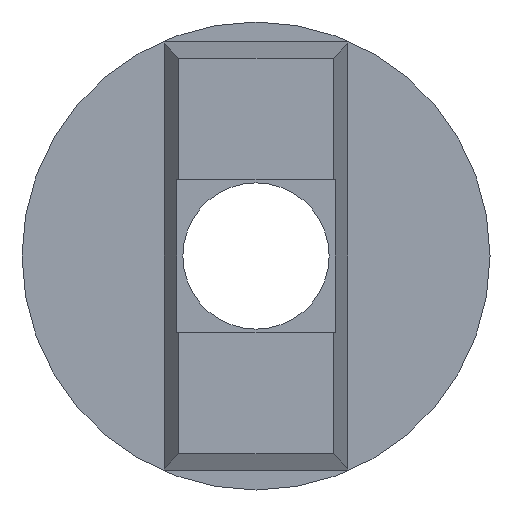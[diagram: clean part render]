
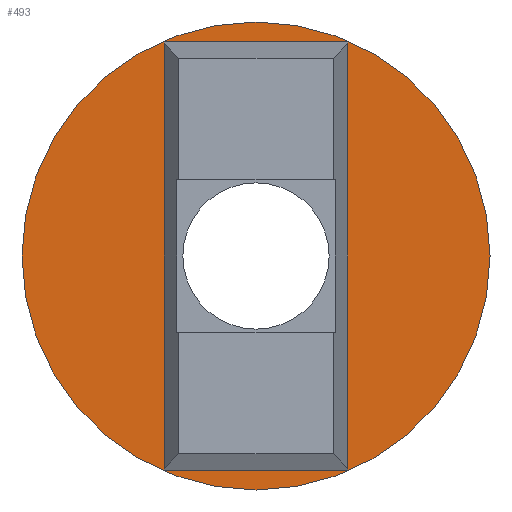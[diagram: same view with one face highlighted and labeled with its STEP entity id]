
A CAD part, front view. The second image highlights one B-rep face of the part: STEP entity #493.
In plain terms, the highlighted planar face has unit normal (0, -1, 0).
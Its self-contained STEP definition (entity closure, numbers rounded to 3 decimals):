
#6 = ORIENTED_EDGE ( 'NONE', *, *, #683, .F. ) ;
#18 = VECTOR ( 'NONE', #180, 1000. ) ;
#28 = CARTESIAN_POINT ( 'NONE',  ( 0., 8., -20. ) ) ;
#30 = FACE_OUTER_BOUND ( 'NONE', #641, .T. ) ;
#37 = DIRECTION ( 'NONE',  ( -1., 0., 0. ) ) ;
#86 = LINE ( 'NONE', #182, #18 ) ;
#90 = VERTEX_POINT ( 'NONE', #111 ) ;
#93 = EDGE_CURVE ( 'NONE', #537, #200, #539, .T. ) ;
#97 = AXIS2_PLACEMENT_3D ( 'NONE', #810, #739, #296 ) ;
#111 = CARTESIAN_POINT ( 'NONE',  ( 0., 8., 20. ) ) ;
#157 = AXIS2_PLACEMENT_3D ( 'NONE', #750, #411, #37 ) ;
#177 = DIRECTION ( 'NONE',  ( 0., 0., -1. ) ) ;
#180 = DIRECTION ( 'NONE',  ( 0., 0., -1. ) ) ;
#182 = CARTESIAN_POINT ( 'NONE',  ( 7.85, 8., 24.75 ) ) ;
#189 = CARTESIAN_POINT ( 'NONE',  ( -20., 8., 18.3 ) ) ;
#200 = VERTEX_POINT ( 'NONE', #612 ) ;
#214 = PLANE ( 'NONE',  #456 ) ;
#219 = DIRECTION ( 'NONE',  ( -1., 0., 0. ) ) ;
#237 = VERTEX_POINT ( 'NONE', #503 ) ;
#245 = ORIENTED_EDGE ( 'NONE', *, *, #576, .F. ) ;
#258 = EDGE_CURVE ( 'NONE', #537, #668, #358, .T. ) ;
#296 = DIRECTION ( 'NONE',  ( -1., 0., 0. ) ) ;
#334 = CIRCLE ( 'NONE', #97, 20. ) ;
#358 = LINE ( 'NONE', #189, #430 ) ;
#383 = EDGE_CURVE ( 'NONE', #200, #237, #426, .T. ) ;
#411 = DIRECTION ( 'NONE',  ( 0., 1., 0. ) ) ;
#426 = LINE ( 'NONE', #716, #484 ) ;
#430 = VECTOR ( 'NONE', #434, 1000. ) ;
#434 = DIRECTION ( 'NONE',  ( 1., 0., 0. ) ) ;
#456 = AXIS2_PLACEMENT_3D ( 'NONE', #590, #529, #219 ) ;
#484 = VECTOR ( 'NONE', #518, 1000. ) ;
#493 = ADVANCED_FACE ( 'NONE', ( #665, #30 ), #214, .F. ) ;
#503 = CARTESIAN_POINT ( 'NONE',  ( 7.85, 8., -18.3 ) ) ;
#518 = DIRECTION ( 'NONE',  ( 1., 0., 0. ) ) ;
#524 = CARTESIAN_POINT ( 'NONE',  ( -7.85, 8., 18.3 ) ) ;
#529 = DIRECTION ( 'NONE',  ( 0., 1., 0. ) ) ;
#537 = VERTEX_POINT ( 'NONE', #524 ) ;
#539 = LINE ( 'NONE', #608, #791 ) ;
#557 = ORIENTED_EDGE ( 'NONE', *, *, #93, .F. ) ;
#576 = EDGE_CURVE ( 'NONE', #90, #613, #334, .T. ) ;
#590 = CARTESIAN_POINT ( 'NONE',  ( -7.85, 8., 24.75 ) ) ;
#601 = CARTESIAN_POINT ( 'NONE',  ( 7.85, 8., 18.3 ) ) ;
#608 = CARTESIAN_POINT ( 'NONE',  ( -7.85, 8., 24.75 ) ) ;
#612 = CARTESIAN_POINT ( 'NONE',  ( -7.85, 8., -18.3 ) ) ;
#613 = VERTEX_POINT ( 'NONE', #28 ) ;
#638 = CIRCLE ( 'NONE', #157, 20. ) ;
#641 = EDGE_LOOP ( 'NONE', ( #245, #6 ) ) ;
#665 = FACE_BOUND ( 'NONE', #776, .T. ) ;
#668 = VERTEX_POINT ( 'NONE', #601 ) ;
#683 = EDGE_CURVE ( 'NONE', #613, #90, #638, .T. ) ;
#696 = ORIENTED_EDGE ( 'NONE', *, *, #383, .F. ) ;
#716 = CARTESIAN_POINT ( 'NONE',  ( -20., 8., -18.3 ) ) ;
#739 = DIRECTION ( 'NONE',  ( 0., 1., 0. ) ) ;
#750 = CARTESIAN_POINT ( 'NONE',  ( 0., 8., 0. ) ) ;
#776 = EDGE_LOOP ( 'NONE', ( #789, #790, #696, #557 ) ) ;
#784 = EDGE_CURVE ( 'NONE', #668, #237, #86, .T. ) ;
#789 = ORIENTED_EDGE ( 'NONE', *, *, #258, .T. ) ;
#790 = ORIENTED_EDGE ( 'NONE', *, *, #784, .T. ) ;
#791 = VECTOR ( 'NONE', #177, 1000. ) ;
#810 = CARTESIAN_POINT ( 'NONE',  ( 0., 8., 0. ) ) ;
